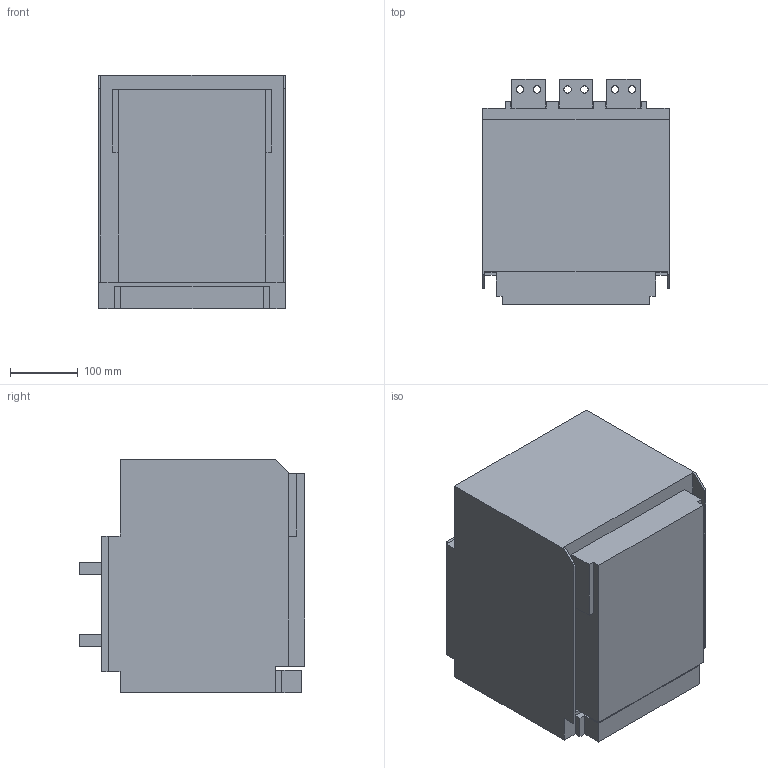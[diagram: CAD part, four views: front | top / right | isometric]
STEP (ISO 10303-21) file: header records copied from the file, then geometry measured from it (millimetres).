
FILE_DESCRIPTION (( 'STEP AP203' ), '1' );
FILE_NAME ('【3D示意图】BW-1600CN3P抽屉式(1600A).STEP', '2025-03-04T08:16:30', ( '' ), ( '' ), 'SwSTEP 2.0', 'SolidWorks 2017', '' );
FILE_SCHEMA (( 'CONFIG_CONTROL_DESIGN' ));
Length unit declared in the file: millimetre
Products named in the file (1): 【3D示意图】BW-1600CN3P抽屉式(1600A)
Bounding box: 275 x 332.5 x 345 mm (x, y, z)
Volume: 25975340.2 mm3; surface area: 641218.9 mm2
Topology: 1 solids, 1 shells, 128 faces, 344 edges, 228 vertices
Faces by surface type: plane 94, cylinder 34
Entity records: 4109 total; most frequent: CARTESIAN_POINT 701, ORIENTED_EDGE 688, DIRECTION 670, EDGE_CURVE 344, LINE 276, VECTOR 276, VERTEX_POINT 228, AXIS2_PLACEMENT_3D 197
